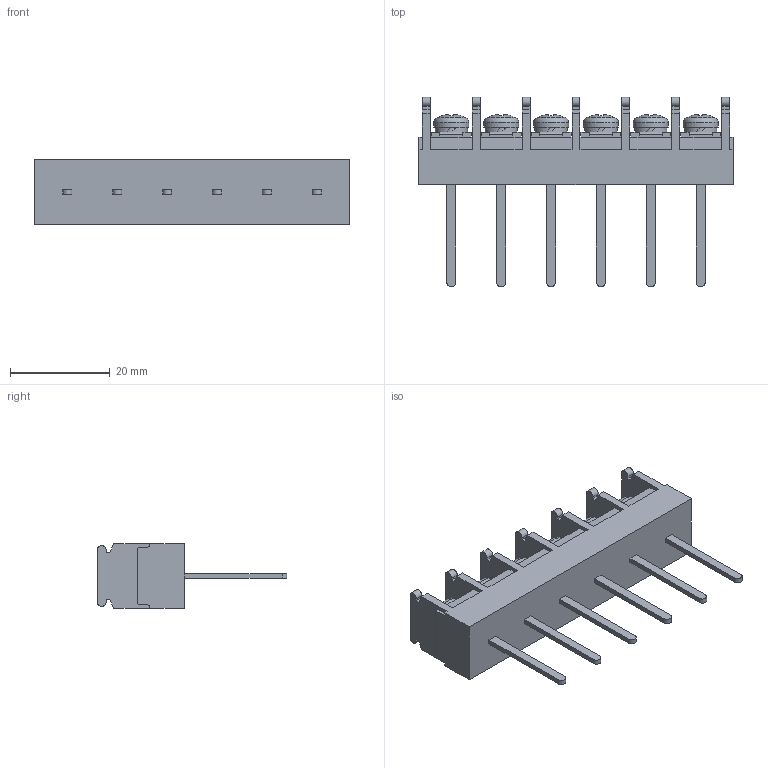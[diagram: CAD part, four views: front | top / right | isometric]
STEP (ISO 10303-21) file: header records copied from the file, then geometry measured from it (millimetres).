
FILE_DESCRIPTION(/* description */ ('Alibre Inc.'),/* implementation_level */ '2;1');
FILE_NAME(/* name */ 'export0',/* time_stamp */ '2015-10-17T19:24:04+09:00',/* author */ (''),/* organization */ (''),/* preprocessor_version */ 'ST-DEVELOPER v14',/* originating_system */ 'Alibre',/* authorisation */ '');
FILE_SCHEMA (('CONFIG_CONTROL_DESIGN'));
Length unit declared in the file: centimetre
Products named in the file (1): ID_1
Bounding box: 63 x 38 x 13 mm (x, y, z)
Volume: 9877.1 mm3; surface area: 6272.9 mm2
Topology: 1 solids, 17 shells, 782 faces, 2112 edges, 1402 vertices
Faces by surface type: plane 586, bspline 104, cylinder 50, cone 24, torus 12, sphere 6
Full cylindrical faces by diameter (mm): 4 x6, 6.5 x6, 7 x6
Entity records: 23767 total; most frequent: CARTESIAN_POINT 5363, ORIENTED_EDGE 4140, DIRECTION 2858, EDGE_CURVE 2070, VECTOR 1546, LINE 1546, VERTEX_POINT 1384, AXIS2_PLACEMENT_3D 945
